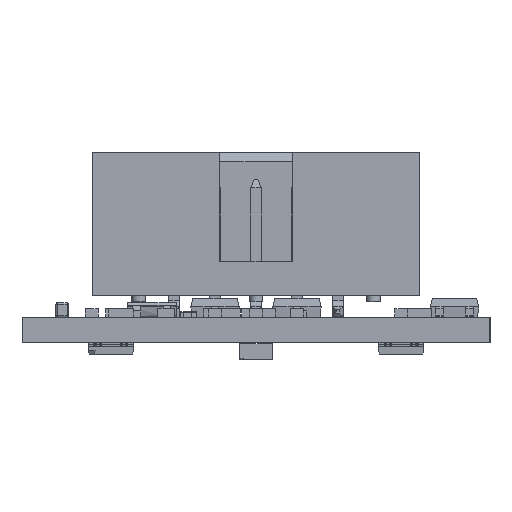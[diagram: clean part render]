
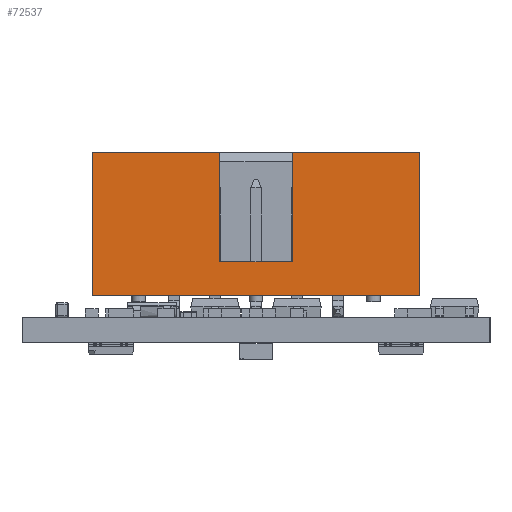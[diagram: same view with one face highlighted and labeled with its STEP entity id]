
A CAD part, left-side view. The second image highlights one B-rep face of the part: STEP entity #72537.
In plain terms, the highlighted planar face has unit normal (-1, 0, 0).
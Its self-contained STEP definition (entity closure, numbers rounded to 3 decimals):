
#72537 = ADVANCED_FACE('',(#72538),#72604,.F.);
#72538 = FACE_BOUND('',#72539,.T.);
#72539 = EDGE_LOOP('',(#72540,#72550,#72558,#72566,#72574,#72582,#72590,
    #72598));
#72540 = ORIENTED_EDGE('',*,*,#72541,.F.);
#72541 = EDGE_CURVE('',#72542,#72544,#72546,.T.);
#72542 = VERTEX_POINT('',#72543);
#72543 = CARTESIAN_POINT('',(15.285,-2.26,
    3.445));
#72544 = VERTEX_POINT('',#72545);
#72545 = CARTESIAN_POINT('',(15.285,-2.26,
    10.245));
#72546 = LINE('',#72547,#72548);
#72547 = CARTESIAN_POINT('',(15.285,-2.26,
    3.445));
#72548 = VECTOR('',#72549,1.);
#72549 = DIRECTION('',(0.,0.,1.));
#72550 = ORIENTED_EDGE('',*,*,#72551,.T.);
#72551 = EDGE_CURVE('',#72542,#72552,#72554,.T.);
#72552 = VERTEX_POINT('',#72553);
#72553 = CARTESIAN_POINT('',(15.285,2.26,
    3.445));
#72554 = LINE('',#72555,#72556);
#72555 = CARTESIAN_POINT('',(15.285,-2.26,
    3.445));
#72556 = VECTOR('',#72557,1.);
#72557 = DIRECTION('',(0.,1.,0.));
#72558 = ORIENTED_EDGE('',*,*,#72559,.T.);
#72559 = EDGE_CURVE('',#72552,#72560,#72562,.T.);
#72560 = VERTEX_POINT('',#72561);
#72561 = CARTESIAN_POINT('',(15.285,2.26,
    10.245));
#72562 = LINE('',#72563,#72564);
#72563 = CARTESIAN_POINT('',(15.285,2.26,
    3.445));
#72564 = VECTOR('',#72565,1.);
#72565 = DIRECTION('',(0.,0.,1.));
#72566 = ORIENTED_EDGE('',*,*,#72567,.F.);
#72567 = EDGE_CURVE('',#72568,#72560,#72570,.T.);
#72568 = VERTEX_POINT('',#72569);
#72569 = CARTESIAN_POINT('',(15.285,10.16,
    10.245));
#72570 = LINE('',#72571,#72572);
#72571 = CARTESIAN_POINT('',(15.285,10.16,
    10.245));
#72572 = VECTOR('',#72573,1.);
#72573 = DIRECTION('',(0.,-1.,0.));
#72574 = ORIENTED_EDGE('',*,*,#72575,.F.);
#72575 = EDGE_CURVE('',#72576,#72568,#72578,.T.);
#72576 = VERTEX_POINT('',#72577);
#72577 = CARTESIAN_POINT('',(15.285,10.16,
    1.355));
#72578 = LINE('',#72579,#72580);
#72579 = CARTESIAN_POINT('',(15.285,10.16,
    1.355));
#72580 = VECTOR('',#72581,1.);
#72581 = DIRECTION('',(0.,0.,1.));
#72582 = ORIENTED_EDGE('',*,*,#72583,.F.);
#72583 = EDGE_CURVE('',#72584,#72576,#72586,.T.);
#72584 = VERTEX_POINT('',#72585);
#72585 = CARTESIAN_POINT('',(15.285,-10.16,
    1.355));
#72586 = LINE('',#72587,#72588);
#72587 = CARTESIAN_POINT('',(15.285,-10.16,
    1.355));
#72588 = VECTOR('',#72589,1.);
#72589 = DIRECTION('',(0.,1.,0.));
#72590 = ORIENTED_EDGE('',*,*,#72591,.F.);
#72591 = EDGE_CURVE('',#72592,#72584,#72594,.T.);
#72592 = VERTEX_POINT('',#72593);
#72593 = CARTESIAN_POINT('',(15.285,-10.16,
    10.245));
#72594 = LINE('',#72595,#72596);
#72595 = CARTESIAN_POINT('',(15.285,-10.16,
    10.245));
#72596 = VECTOR('',#72597,1.);
#72597 = DIRECTION('',(0.,0.,-1.));
#72598 = ORIENTED_EDGE('',*,*,#72599,.F.);
#72599 = EDGE_CURVE('',#72544,#72592,#72600,.T.);
#72600 = LINE('',#72601,#72602);
#72601 = CARTESIAN_POINT('',(15.285,10.16,
    10.245));
#72602 = VECTOR('',#72603,1.);
#72603 = DIRECTION('',(0.,-1.,0.));
#72604 = PLANE('',#72605);
#72605 = AXIS2_PLACEMENT_3D('',#72606,#72607,#72608);
#72606 = CARTESIAN_POINT('',(15.285,0.,
    5.8));
#72607 = DIRECTION('',(1.,0.,0.));
#72608 = DIRECTION('',(0.,0.,1.));
